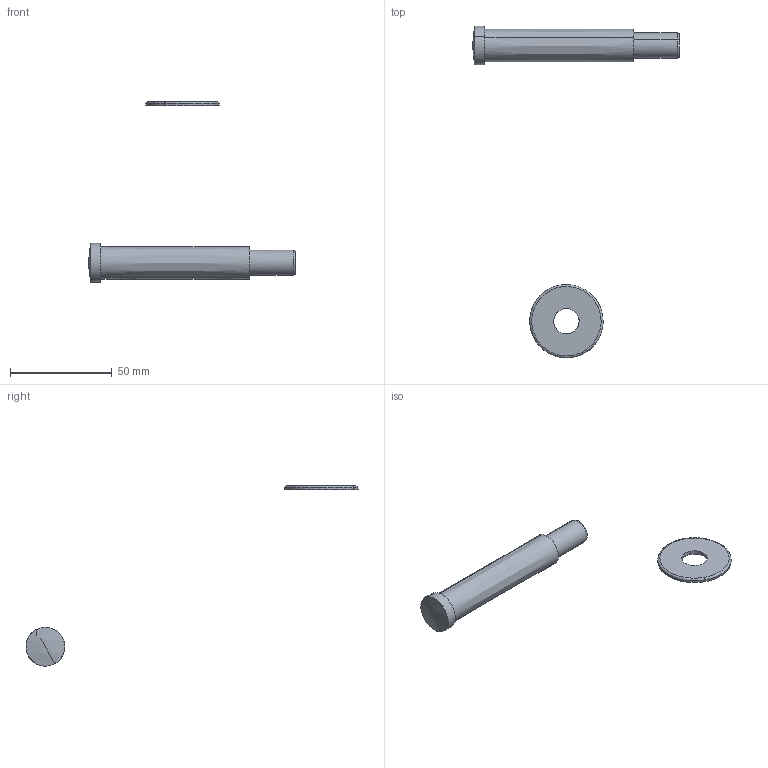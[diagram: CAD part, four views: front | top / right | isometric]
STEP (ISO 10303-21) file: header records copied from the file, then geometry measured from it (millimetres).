
FILE_DESCRIPTION (( 'STEP AP214' ), '1' );
FILE_NAME ('KTU-200WK-GS-60.STEP', '2018-08-30T08:07:00', ( '' ), ( '' ), 'SwSTEP 2.0', 'SolidWorks 2010', '' );
FILE_SCHEMA (( 'AUTOMOTIVE_DESIGN' ));
Length unit declared in the file: millimetre
Products named in the file (1): KTU-200WK-GS-60
Bounding box: 101.4 x 163 x 88.49 mm (x, y, z)
Volume: 20676.2 mm3; surface area: 7440.6 mm2
Topology: 2 solids, 2 shells, 21 faces, 64 edges, 47 vertices
Faces by surface type: bspline 16, plane 5
Entity records: 3490 total; most frequent: CARTESIAN_POINT 2926, ORIENTED_EDGE 124, EDGE_CURVE 62, B_SPLINE_CURVE_WITH_KNOTS 52, VERTEX_POINT 47, EDGE_LOOP 25, DIRECTION 22, ADVANCED_FACE 21
